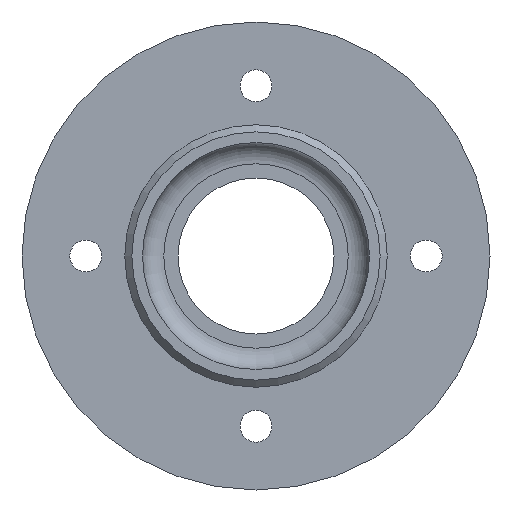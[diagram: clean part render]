
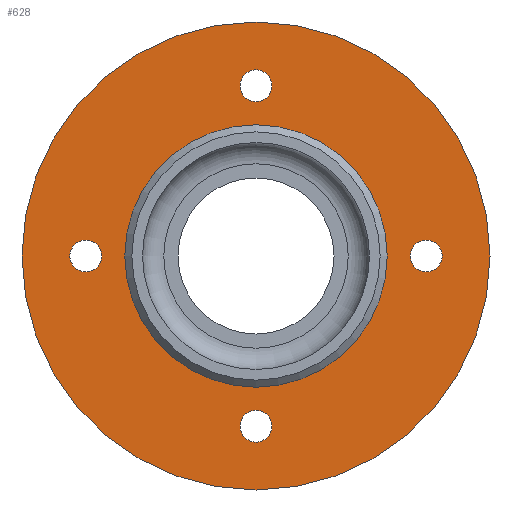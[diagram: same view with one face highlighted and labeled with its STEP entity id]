
A CAD part, left-side view. The second image highlights one B-rep face of the part: STEP entity #628.
In plain terms, the highlighted planar face has unit normal (-1, 0, 0).
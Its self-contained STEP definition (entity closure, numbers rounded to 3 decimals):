
#104=FACE_BOUND('',#186,.T.);
#105=FACE_BOUND('',#187,.T.);
#106=FACE_BOUND('',#188,.T.);
#107=FACE_BOUND('',#189,.T.);
#108=FACE_BOUND('',#190,.T.);
#141=FACE_OUTER_BOUND('',#185,.T.);
#185=EDGE_LOOP('',(#552));
#186=EDGE_LOOP('',(#553));
#187=EDGE_LOOP('',(#554));
#188=EDGE_LOOP('',(#555));
#189=EDGE_LOOP('',(#556));
#190=EDGE_LOOP('',(#557));
#202=CIRCLE('',#664,2.25);
#206=CIRCLE('',#671,2.25);
#210=CIRCLE('',#678,2.25);
#226=CIRCLE('',#704,2.25);
#231=CIRCLE('',#712,18.5);
#244=CIRCLE('',#734,33.);
#260=VERTEX_POINT('',#1020);
#270=VERTEX_POINT('',#1100);
#281=VERTEX_POINT('',#1185);
#292=VERTEX_POINT('',#1285);
#297=VERTEX_POINT('',#1300);
#308=VERTEX_POINT('',#1338);
#323=EDGE_CURVE('',#260,#260,#202,.T.);
#335=EDGE_CURVE('',#270,#270,#206,.T.);
#348=EDGE_CURVE('',#281,#281,#210,.T.);
#372=EDGE_CURVE('',#292,#292,#226,.T.);
#378=EDGE_CURVE('',#297,#297,#231,.T.);
#396=EDGE_CURVE('',#308,#308,#244,.T.);
#552=ORIENTED_EDGE('',*,*,#396,.F.);
#553=ORIENTED_EDGE('',*,*,#323,.T.);
#554=ORIENTED_EDGE('',*,*,#335,.T.);
#555=ORIENTED_EDGE('',*,*,#348,.T.);
#556=ORIENTED_EDGE('',*,*,#372,.T.);
#557=ORIENTED_EDGE('',*,*,#378,.T.);
#595=PLANE('',#733);
#628=ADVANCED_FACE('',(#141,#104,#105,#106,#107,#108),#595,.T.);
#664=AXIS2_PLACEMENT_3D('',#1022,#763,#764);
#671=AXIS2_PLACEMENT_3D('',#1102,#779,#780);
#678=AXIS2_PLACEMENT_3D('',#1187,#795,#796);
#704=AXIS2_PLACEMENT_3D('',#1287,#849,#850);
#712=AXIS2_PLACEMENT_3D('',#1301,#866,#867);
#733=AXIS2_PLACEMENT_3D('',#1337,#913,#914);
#734=AXIS2_PLACEMENT_3D('',#1339,#915,#916);
#763=DIRECTION('center_axis',(1.,0.,0.));
#764=DIRECTION('ref_axis',(0.,-1.,0.));
#779=DIRECTION('center_axis',(1.,0.,0.));
#780=DIRECTION('ref_axis',(0.,0.,1.));
#795=DIRECTION('center_axis',(1.,0.,0.));
#796=DIRECTION('ref_axis',(0.,1.,0.));
#849=DIRECTION('center_axis',(1.,0.,0.));
#850=DIRECTION('ref_axis',(0.,0.,-1.));
#866=DIRECTION('center_axis',(1.,0.,0.));
#867=DIRECTION('ref_axis',(0.,0.,-1.));
#913=DIRECTION('center_axis',(-1.,0.,0.));
#914=DIRECTION('ref_axis',(0.,0.,1.));
#915=DIRECTION('center_axis',(1.,0.,0.));
#916=DIRECTION('ref_axis',(0.,0.,-1.));
#1020=CARTESIAN_POINT('',(3.,2.25,-24.));
#1022=CARTESIAN_POINT('Origin',(3.,0.,
-24.));
#1100=CARTESIAN_POINT('',(3.,-24.,-2.25));
#1102=CARTESIAN_POINT('Origin',(3.,-24.,0.));
#1185=CARTESIAN_POINT('',(3.,-2.25,24.));
#1187=CARTESIAN_POINT('Origin',(3.,0.,24.));
#1285=CARTESIAN_POINT('',(3.,24.,2.25));
#1287=CARTESIAN_POINT('Origin',(3.,24.,0.));
#1300=CARTESIAN_POINT('',(3.,-18.5,0.));
#1301=CARTESIAN_POINT('Origin',(3.,0.,0.));
#1337=CARTESIAN_POINT('Origin',(3.,33.,0.));
#1338=CARTESIAN_POINT('',(3.,-33.,0.));
#1339=CARTESIAN_POINT('Origin',(3.,0.,0.));
